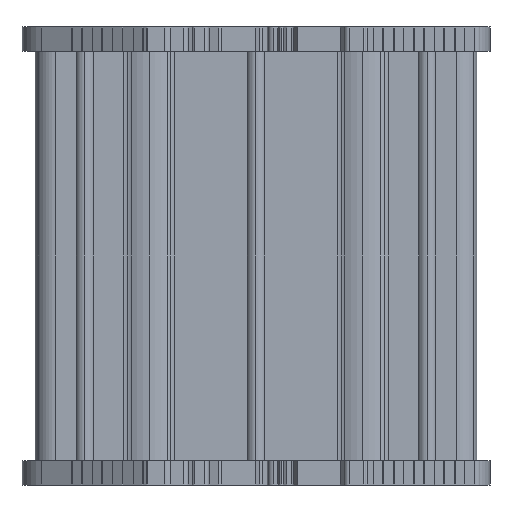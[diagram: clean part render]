
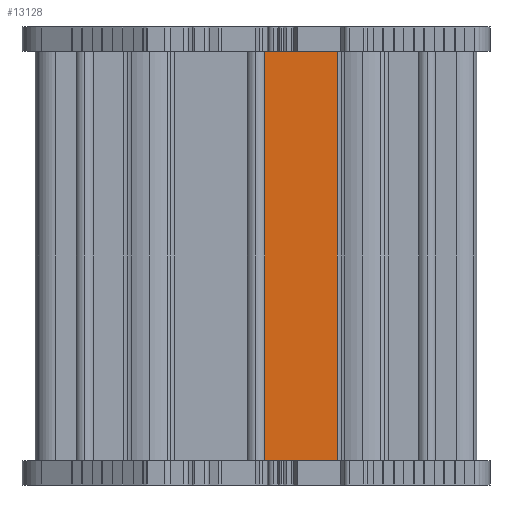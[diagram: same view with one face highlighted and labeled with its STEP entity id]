
A CAD part, front view. The second image highlights one B-rep face of the part: STEP entity #13128.
In plain terms, the highlighted planar face has unit normal (0, -1, 0).
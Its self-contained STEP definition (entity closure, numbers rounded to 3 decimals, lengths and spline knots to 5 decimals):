
#3534=EDGE_CURVE('10:1795',#7461,#7465,#7466,.T.);
#5026=EDGE_CURVE('10:1789',#9541,#9542,#9543,.F.);
#5028=EDGE_CURVE('10:1792',#7465,#9541,#9545,.T.);
#5030=EDGE_CURVE('10:907',#9542,#7461,#9547,.F.);
#7461=VERTEX_POINT('',#15153);
#7465=VERTEX_POINT('',#15158);
#7466=LINE('',#15159,#15160);
#9541=VERTEX_POINT('',#18327);
#9542=VERTEX_POINT('',#18328);
#9543=LINE('',#18329,#18330);
#9545=LINE('',#18333,#18334);
#9547=LINE('',#18337,#18338);
#13128=ADVANCED_FACE('10:142',(#25570),#25571,.T.);
#15153=CARTESIAN_POINT('',(0.12152,0.13441,0.11225));
#15158=CARTESIAN_POINT('',(0.12152,0.13441,0.02805));
#15159=CARTESIAN_POINT('',(0.12152,0.13441,0.0));
#15160=VECTOR('',#30548,1.0);
#18327=CARTESIAN_POINT('',(0.10621,0.13441,0.02805));
#18328=CARTESIAN_POINT('',(0.10621,0.13441,0.11225));
#18329=CARTESIAN_POINT('',(0.10621,0.13441,0.0));
#18330=VECTOR('',#32092,1.0);
#18333=CARTESIAN_POINT('',(0.11351,0.13441,0.02805));
#18334=VECTOR('',#32093,1.0);
#18337=CARTESIAN_POINT('',(0.11351,0.13441,0.11225));
#18338=VECTOR('',#32094,1.0);
#25570=FACE_OUTER_BOUND('',#45649,.T.);
#25571=PLANE('',#45650);
#30548=DIRECTION('',(0.0,0.0,-1.0));
#32092=DIRECTION('',(0.0,0.0,-1.0));
#32093=DIRECTION('',(-1.0,0.0,0.0));
#32094=DIRECTION('',(-1.0,0.0,0.0));
#45649=EDGE_LOOP('',(#72645,#72646,#72647,#72648));
#45650=AXIS2_PLACEMENT_3D('',#72649,#72650,#72651);
#72645=ORIENTED_EDGE('',*,*,#5026,.F.);
#72646=ORIENTED_EDGE('',*,*,#5028,.F.);
#72647=ORIENTED_EDGE('',*,*,#3534,.F.);
#72648=ORIENTED_EDGE('',*,*,#5030,.F.);
#72649=CARTESIAN_POINT('',(0.12152,0.13441,0.0));
#72650=DIRECTION('',(0.0,-1.0,0.0));
#72651=DIRECTION('',(0.0,0.0,-1.0));
